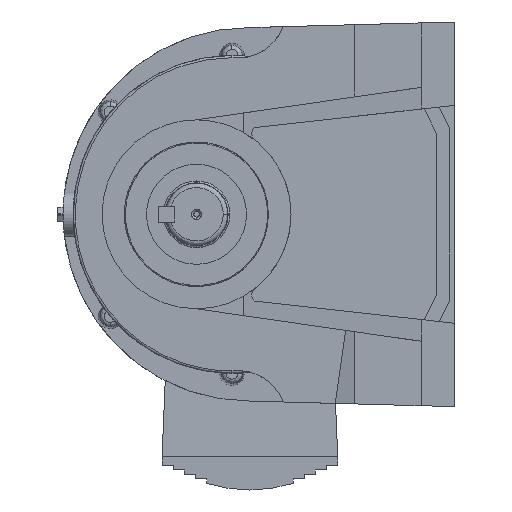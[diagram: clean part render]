
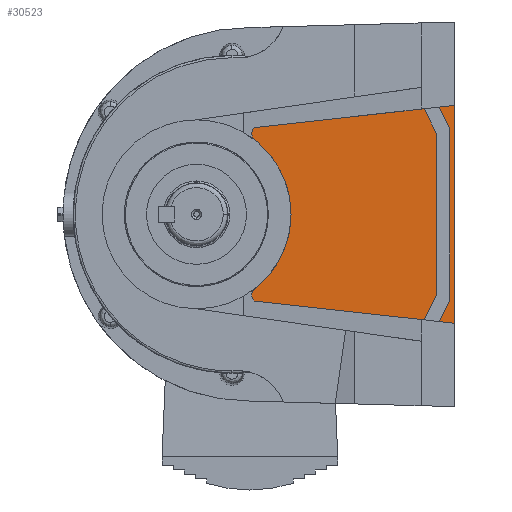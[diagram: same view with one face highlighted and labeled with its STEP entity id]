
A CAD part, left-side view. The second image highlights one B-rep face of the part: STEP entity #30523.
In plain terms, the highlighted planar face has unit normal (-1, 0, 0).
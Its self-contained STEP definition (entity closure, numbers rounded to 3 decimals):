
#1421 = DIRECTION ( 'NONE',  ( 1., 0., 0. ) ) ;
#2056 = DIRECTION ( 'NONE',  ( 0., 0.994, -0.11 ) ) ;
#2732 = ORIENTED_EDGE ( 'NONE', *, *, #10153, .F. ) ;
#2855 = CIRCLE ( 'NONE', #14020, 42.5 ) ;
#3045 = DIRECTION ( 'NONE',  ( 1., 0., 0. ) ) ;
#4206 = CARTESIAN_POINT ( 'NONE',  ( 10., 90., 39. ) ) ;
#4393 = VERTEX_POINT ( 'NONE', #4206 ) ;
#5750 = DIRECTION ( 'NONE',  ( -1., 0., 0. ) ) ;
#6052 = DIRECTION ( 'NONE',  ( 0., 0.994, 0.11 ) ) ;
#6322 = CARTESIAN_POINT ( 'NONE',  ( 10., 90., -39. ) ) ;
#6413 = VERTEX_POINT ( 'NONE', #22328 ) ;
#8132 = DIRECTION ( 'NONE',  ( 0., 0., 1. ) ) ;
#8220 = ORIENTED_EDGE ( 'NONE', *, *, #19083, .T. ) ;
#8643 = LINE ( 'NONE', #16903, #15071 ) ;
#8982 = CIRCLE ( 'NONE', #33308, 3.805 ) ;
#9963 = CARTESIAN_POINT ( 'NONE',  ( 10., 0., -49. ) ) ;
#10153 = EDGE_CURVE ( 'NONE', #6413, #19292, #2855, .T. ) ;
#11388 = EDGE_CURVE ( 'NONE', #18252, #23679, #8643, .T. ) ;
#11574 = DIRECTION ( 'NONE',  ( 0., 0., -1. ) ) ;
#12452 = EDGE_CURVE ( 'NONE', #23679, #6413, #8982, .T. ) ;
#12738 = VECTOR ( 'NONE', #8132, 1000. ) ;
#13652 = AXIS2_PLACEMENT_3D ( 'NONE', #25087, #27781, #11574 ) ;
#14020 = AXIS2_PLACEMENT_3D ( 'NONE', #22017, #5750, #24728 ) ;
#14226 = PLANE ( 'NONE',  #13652 ) ;
#15071 = VECTOR ( 'NONE', #6052, 1000. ) ;
#15257 = EDGE_LOOP ( 'NONE', ( #21975, #25415, #8220, #23078, #29046, #2732 ) ) ;
#16247 = LINE ( 'NONE', #20994, #22583 ) ;
#16903 = CARTESIAN_POINT ( 'NONE',  ( 10., 0., -49. ) ) ;
#17674 = CARTESIAN_POINT ( 'NONE',  ( 10., 87.31, 36.31 ) ) ;
#18252 = VERTEX_POINT ( 'NONE', #9963 ) ;
#18278 = EDGE_CURVE ( 'NONE', #24871, #4393, #16247, .T. ) ;
#19083 = EDGE_CURVE ( 'NONE', #18252, #24871, #27105, .T. ) ;
#19159 = CIRCLE ( 'NONE', #34775, 3.805 ) ;
#19290 = CARTESIAN_POINT ( 'NONE',  ( 10., 87.31, -36.31 ) ) ;
#19292 = VERTEX_POINT ( 'NONE', #19760 ) ;
#19760 = CARTESIAN_POINT ( 'NONE',  ( 10., 90., 33.619 ) ) ;
#20363 = DIRECTION ( 'NONE',  ( 0., 0., 1. ) ) ;
#20994 = CARTESIAN_POINT ( 'NONE',  ( 10., 0., 49. ) ) ;
#21975 = ORIENTED_EDGE ( 'NONE', *, *, #12452, .F. ) ;
#22017 = CARTESIAN_POINT ( 'NONE',  ( 10., 116., 0. ) ) ;
#22020 = DIRECTION ( 'NONE',  ( 0., 0., 1. ) ) ;
#22328 = CARTESIAN_POINT ( 'NONE',  ( 10., 90., -33.619 ) ) ;
#22583 = VECTOR ( 'NONE', #2056, 1000. ) ;
#23078 = ORIENTED_EDGE ( 'NONE', *, *, #18278, .T. ) ;
#23679 = VERTEX_POINT ( 'NONE', #6322 ) ;
#24728 = DIRECTION ( 'NONE',  ( 0., 0., 1. ) ) ;
#24871 = VERTEX_POINT ( 'NONE', #24932 ) ;
#24932 = CARTESIAN_POINT ( 'NONE',  ( 10., 0., 49. ) ) ;
#25087 = CARTESIAN_POINT ( 'NONE',  ( 10., 87.31, 36.31 ) ) ;
#25415 = ORIENTED_EDGE ( 'NONE', *, *, #11388, .F. ) ;
#27105 = LINE ( 'NONE', #32396, #12738 ) ;
#27781 = DIRECTION ( 'NONE',  ( 1., 0., 0. ) ) ;
#28833 = FACE_OUTER_BOUND ( 'NONE', #15257, .T. ) ;
#29046 = ORIENTED_EDGE ( 'NONE', *, *, #34778, .F. ) ;
#30523 = ADVANCED_FACE ( 'NONE', ( #28833 ), #14226, .F. ) ;
#32396 = CARTESIAN_POINT ( 'NONE',  ( 10., 0., 86.5 ) ) ;
#33308 = AXIS2_PLACEMENT_3D ( 'NONE', #19290, #3045, #22020 ) ;
#34775 = AXIS2_PLACEMENT_3D ( 'NONE', #17674, #1421, #20363 ) ;
#34778 = EDGE_CURVE ( 'NONE', #19292, #4393, #19159, .T. ) ;
